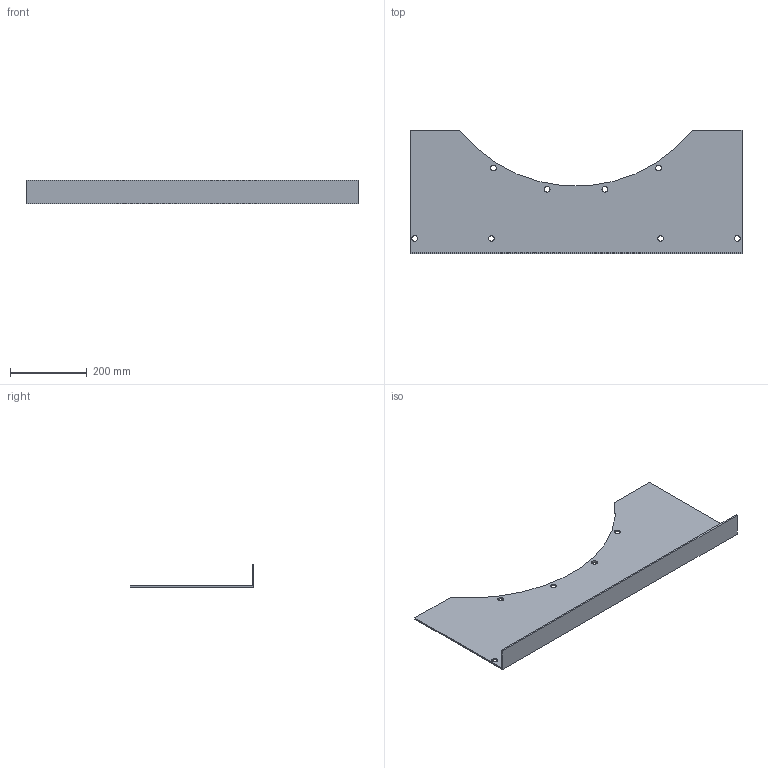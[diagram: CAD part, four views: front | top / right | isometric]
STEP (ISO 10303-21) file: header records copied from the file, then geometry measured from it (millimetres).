
FILE_DESCRIPTION(('STEP AP214'),'1');
FILE_NAME('accessory_5138889100.stp','2017-10-09T07:38:48',('TraceParts'),('TraceParts S.A.'),'Spatial InterOp 3D',' ',' ');
FILE_SCHEMA(('automotive_design'));
Length unit declared in the file: millimetre
Products named in the file (1): accessory_5138889100
Bounding box: 864 x 322 x 60 mm (x, y, z)
Volume: 1054668 mm3; surface area: 539138 mm2
Topology: 1 solids, 1 shells, 26 faces, 72 edges, 48 vertices
Faces by surface type: cylinder 17, plane 9
Entity records: 1106 total; most frequent: DIRECTION 160, CARTESIAN_POINT 147, ORIENTED_EDGE 144, EDGE_CURVE 72, AXIS2_PLACEMENT_3D 61, VERTEX_POINT 48, EDGE_LOOP 42, LINE 38
